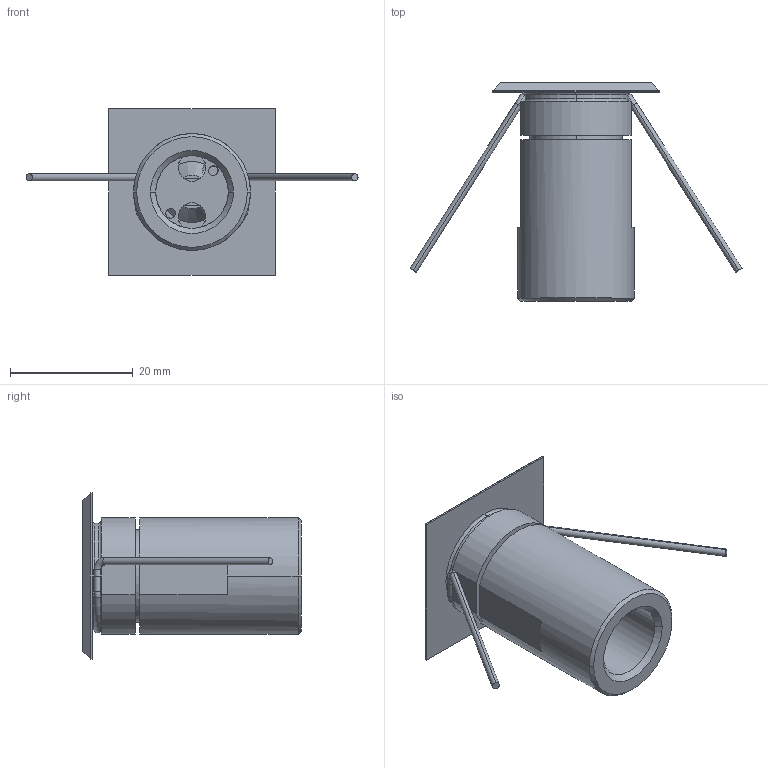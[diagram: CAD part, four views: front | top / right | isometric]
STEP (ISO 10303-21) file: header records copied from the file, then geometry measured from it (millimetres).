
FILE_DESCRIPTION((''),'2;1');
FILE_NAME('CNC-25-QUADRO_SW0001','2025-07-30T14:40:19',('Piccioli'),(''),'CREO PARAMETRIC BY PTC INC, 2025010','CREO PARAMETRIC BY PTC INC, 2025010','');
FILE_SCHEMA(('CONFIG_CONTROL_DESIGN'));
Length unit declared in the file: millimetre
Products named in the file (1): CNC-25-QUADRO_SW0001
Bounding box: 54 x 35.5 x 27 mm (x, y, z)
Surface area: 6030.1 mm2 (no closed solid volume)
Topology: 0 solids, 9 shells, 116 faces, 304 edges, 198 vertices
Faces by surface type: plane 44, cylinder 38, torus 14, cone 12, bspline 4, sphere 4
Entity records: 4167 total; most frequent: CARTESIAN_POINT 1209, DIRECTION 664, ORIENTED_EDGE 556, EDGE_CURVE 304, AXIS2_PLACEMENT_3D 276, VERTEX_POINT 198, CIRCLE 164, EDGE_LOOP 130
